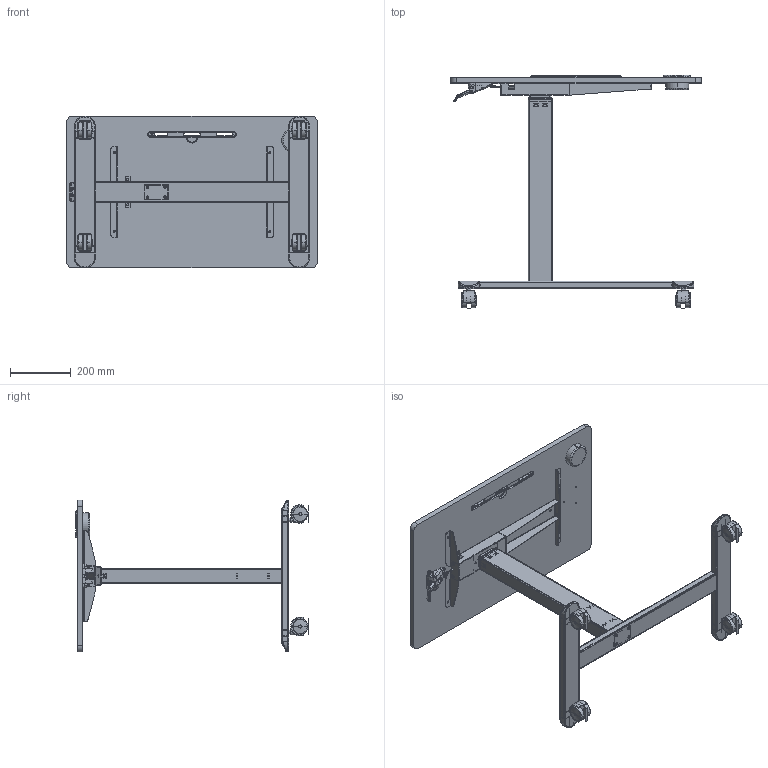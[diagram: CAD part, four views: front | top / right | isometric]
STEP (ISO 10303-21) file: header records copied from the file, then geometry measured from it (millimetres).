
FILE_DESCRIPTION(('CATIA V5 STEP Exchange'),'2;1');
FILE_NAME('F:\王锋-工作文件\RD-WF-024(双腿气动桌)\AK-MR-P20（床头气动单柱桌）\线框图\AK-MR-P20-气动床头桌.stp','2020-12-18T07:58:11+00:00',('none'),('none'),'CATIA Version 5 Release 21 GA (IN-10)','CATIA V5 STEP AP203','none');
FILE_SCHEMA(('CONFIG_CONTROL_DESIGN'));
Products named in the file (6): ASM-气动床头桌; 1.96.008.1808XAK-MR-P17-DJ1-03_地脚-V2; 1.96.008.1812XAK-MR-P17-XG02-58_下管; 双线开关; 滑轮组件; 上管焊接件-V2
Assembly tree (46 placements, depth 3):
  ASM-气动床头桌
    1.96.008.1808XAK-MR-P17-DJ1-03_地脚-V2
      #66  x2
      #969
    1.96.008.1812XAK-MR-P17-XG02-58_下管
      #2883
      #4073
    #4765
    #6469
    #8037  x4
    #17268
    #70499  x4
    #72166
    双线开关
      #74860
      #80454
    #87938
    #108195
    #108710
    滑轮组件  x12
      #119701
      #129252
      #129457
    上管焊接件-V2
      #129837
      #135620
      #138092
      #139930
Bounding box: 825 x 766.49 x 500 mm (x, y, z)
Volume: 8755285.4 mm3; surface area: 2514407.8 mm2
Topology: 57 solids, 80 shells, 7562 faces, 20222 edges, 12684 vertices
Faces by surface type: plane 3376, cylinder 2351, bspline 1364, cone 223, sphere 192, torus 56
Entity records: 144221 total; most frequent: CARTESIAN_POINT 52566, ORIENTED_EDGE 21558, DIRECTION 14824, EDGE_CURVE 10783, VECTOR 7223, LINE 7223, VERTEX_POINT 7062, AXIS2_PLACEMENT_3D 4313
